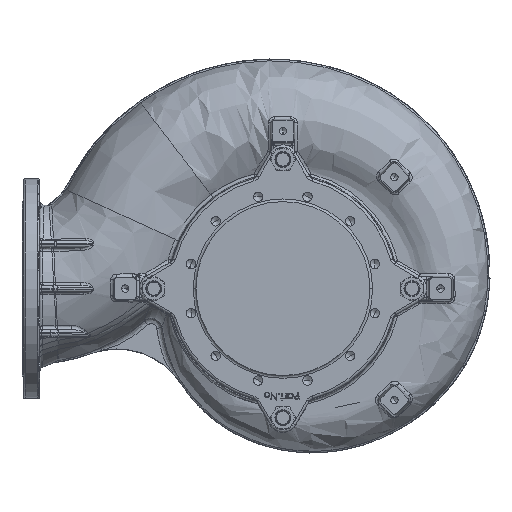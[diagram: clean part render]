
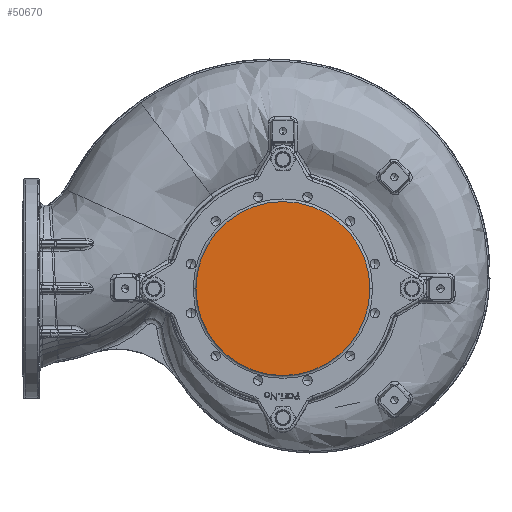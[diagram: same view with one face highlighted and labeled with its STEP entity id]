
A CAD part, front view. The second image highlights one B-rep face of the part: STEP entity #50670.
In plain terms, the highlighted planar face has unit normal (0, -1, 0).
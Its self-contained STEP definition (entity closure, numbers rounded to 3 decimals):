
#2653 = EDGE_CURVE ( 'NONE', #111746, #150775, #62854, .T. ) ;
#4025 = DIRECTION ( 'NONE',  ( 0., -1., 0. ) ) ;
#11504 = DIRECTION ( 'NONE',  ( 1., 0., 0. ) ) ;
#48544 = EDGE_LOOP ( 'NONE', ( #90814, #110038 ) ) ;
#50670 = ADVANCED_FACE ( 'NONE', ( #171341 ), #112786, .T. ) ;
#57890 = EDGE_CURVE ( 'NONE', #150775, #111746, #173965, .T. ) ;
#58402 = DIRECTION ( 'NONE',  ( 0., 1., 0. ) ) ;
#60190 = CARTESIAN_POINT ( 'NONE',  ( 160., -554.5, 0. ) ) ;
#62854 = CIRCLE ( 'NONE', #111599, 160. ) ;
#71581 = DIRECTION ( 'NONE',  ( 1., 0., 0. ) ) ;
#77625 = CARTESIAN_POINT ( 'NONE',  ( 0., -554.5, 0. ) ) ;
#85862 = CARTESIAN_POINT ( 'NONE',  ( 0., -554.5, -125. ) ) ;
#90814 = ORIENTED_EDGE ( 'NONE', *, *, #57890, .F. ) ;
#93367 = DIRECTION ( 'NONE',  ( 0., 1., 0. ) ) ;
#99590 = DIRECTION ( 'NONE',  ( -1., 0., 0. ) ) ;
#99754 = AXIS2_PLACEMENT_3D ( 'NONE', #85862, #4025, #99590 ) ;
#107785 = AXIS2_PLACEMENT_3D ( 'NONE', #175215, #93367, #11504 ) ;
#110038 = ORIENTED_EDGE ( 'NONE', *, *, #2653, .F. ) ;
#111599 = AXIS2_PLACEMENT_3D ( 'NONE', #77625, #58402, #71581 ) ;
#111746 = VERTEX_POINT ( 'NONE', #60190 ) ;
#112786 = PLANE ( 'NONE',  #99754 ) ;
#114661 = CARTESIAN_POINT ( 'NONE',  ( -160., -554.5, 0. ) ) ;
#150775 = VERTEX_POINT ( 'NONE', #114661 ) ;
#171341 = FACE_OUTER_BOUND ( 'NONE', #48544, .T. ) ;
#173965 = CIRCLE ( 'NONE', #107785, 160. ) ;
#175215 = CARTESIAN_POINT ( 'NONE',  ( 0., -554.5, 0. ) ) ;
